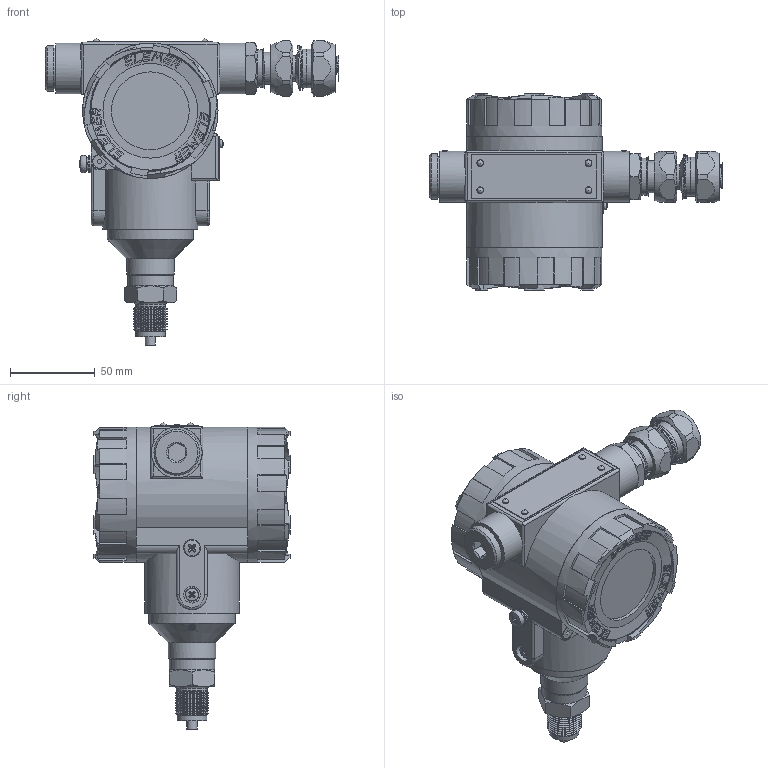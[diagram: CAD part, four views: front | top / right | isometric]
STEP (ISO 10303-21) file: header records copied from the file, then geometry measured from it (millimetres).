
FILE_DESCRIPTION(('STEP AP214'), '1');
FILE_NAME('ÀÈÐ-20_Ì2-Í ÀÃ3 Øòóöåð-ÊÂÌ-16Âí_3D', '2016-06-17T11:17:23', ('UNSPECIFIED'), ('UNSPECIFIED'), 'ASCON STEP Converter 1.3', 'ASCON Math Kernel', '');
FILE_SCHEMA(('AUTOMOTIVE_DESIGN { 1 0 10303 214 3 1 1}'));
Length unit declared in the file: millimetre
Bounding box: 173.25 x 116 x 180.96 mm (x, y, z)
Volume: 364552 mm3; surface area: 171876.7 mm2
Topology: 40 solids, 40 shells, 2797 faces, 7952 edges, 5444 vertices
Faces by surface type: plane 1373, cone 723, cylinder 539, bspline 121, torus 32, sphere 9
Full cylindrical faces by diameter (mm): 2.4 x48, 2.5 x8, 2.9 x4, 3 x1, 3.2 x23, 4 x31, 5 x2, 6 x1, 7 x2, 8 x2, 9 x3, 10 x4, 12 x4, 13.5 x6, 14 x1, 14.5 x4, 15 x1, 17.502 x1, 17.982 x1, 18 x3, 18.362 x10, 18.632 x2, 18.8 x2, 19 x1, 19.1 x11, 19.5 x1, 20 x21, 21.5 x1, 22 x3, 22.362 x7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
Entity records: 559158 total; most frequent: CARTESIAN_POINT 469676, ORIENTED_EDGE 14096, DIRECTION 12512, EDGE_CURVE 7048, VERTEX_POINT 5423, AXIS2_PLACEMENT_3D 5227, EDGE_LOOP 3855, FACE_BOUND 3749
